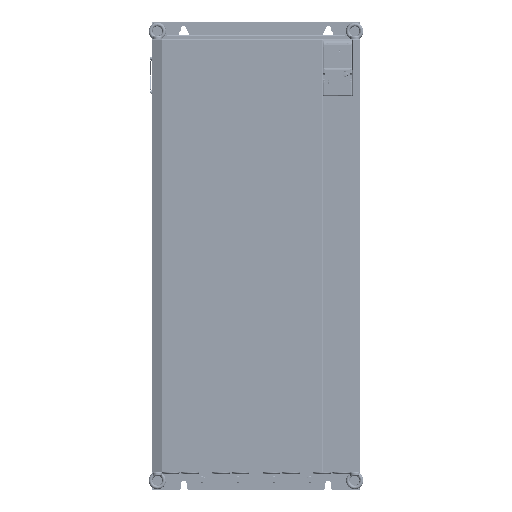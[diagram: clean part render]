
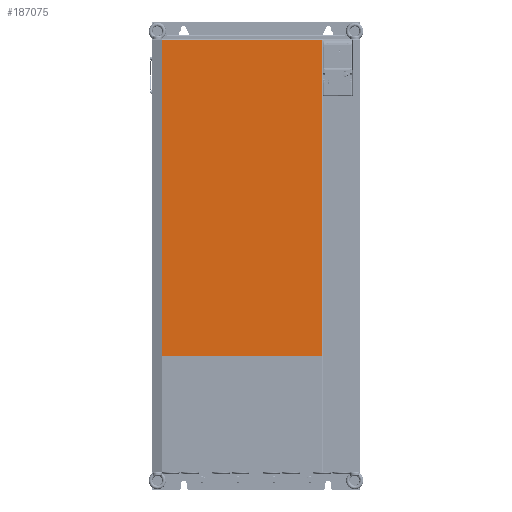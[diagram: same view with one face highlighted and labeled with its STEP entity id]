
A CAD part, top view. The second image highlights one B-rep face of the part: STEP entity #187075.
In plain terms, the highlighted planar face has unit normal (0, 0, 1) as drawn and (0, 1, 0) by its records, which use the part's own axes.
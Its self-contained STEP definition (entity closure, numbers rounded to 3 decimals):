
#185296=DIRECTION('',(0.,0.,-1.));
#185297=VECTOR('',#185296,984.5);
#185298=CARTESIAN_POINT('',(-2.,0.,492.5));
#185299=LINE('',#185298,#185297);
#185408=DIRECTION('',(-1.,0.,0.));
#185409=VECTOR('',#185408,499.872);
#185410=CARTESIAN_POINT('',(-2.,0.,-492.));
#185411=LINE('',#185410,#185409);
#185422=DIRECTION('',(1.,0.,0.));
#185423=VECTOR('',#185422,499.872);
#185424=CARTESIAN_POINT('',(-501.872,0.,492.5));
#185425=LINE('',#185424,#185423);
#185466=DIRECTION('',(0.,0.,1.));
#185467=VECTOR('',#185466,984.5);
#185468=CARTESIAN_POINT('',(-501.872,0.,-492.));
#185469=LINE('',#185468,#185467);
#186538=CARTESIAN_POINT('',(-2.,0.,492.5));
#186539=VERTEX_POINT('',#186538);
#186540=CARTESIAN_POINT('',(-2.,0.,-492.));
#186541=VERTEX_POINT('',#186540);
#186552=CARTESIAN_POINT('',(-501.872,0.,-492.));
#186553=VERTEX_POINT('',#186552);
#186556=CARTESIAN_POINT('',(-501.872,0.,492.5));
#186557=VERTEX_POINT('',#186556);
#187062=CARTESIAN_POINT('',(0.,0.,0.));
#187063=DIRECTION('',(0.,1.,0.));
#187064=DIRECTION('',(1.,0.,0.));
#187065=AXIS2_PLACEMENT_3D('',#187062,#187063,#187064);
#187066=PLANE('',#187065);
#187067=ORIENTED_EDGE('',*,*,#186956,.F.);
#187069=ORIENTED_EDGE('',*,*,#187068,.F.);
#187071=ORIENTED_EDGE('',*,*,#187070,.F.);
#187072=ORIENTED_EDGE('',*,*,#187052,.F.);
#187073=EDGE_LOOP('',(#187067,#187069,#187071,#187072));
#187074=FACE_OUTER_BOUND('',#187073,.F.);
#186956=EDGE_CURVE('',#186539,#186541,#185299,.T.);
#187052=EDGE_CURVE('',#186541,#186553,#185411,.T.);
#187068=EDGE_CURVE('',#186557,#186539,#185425,.T.);
#187070=EDGE_CURVE('',#186553,#186557,#185469,.T.);
#187075=ADVANCED_FACE('',(#187074),#187066,.T.);
